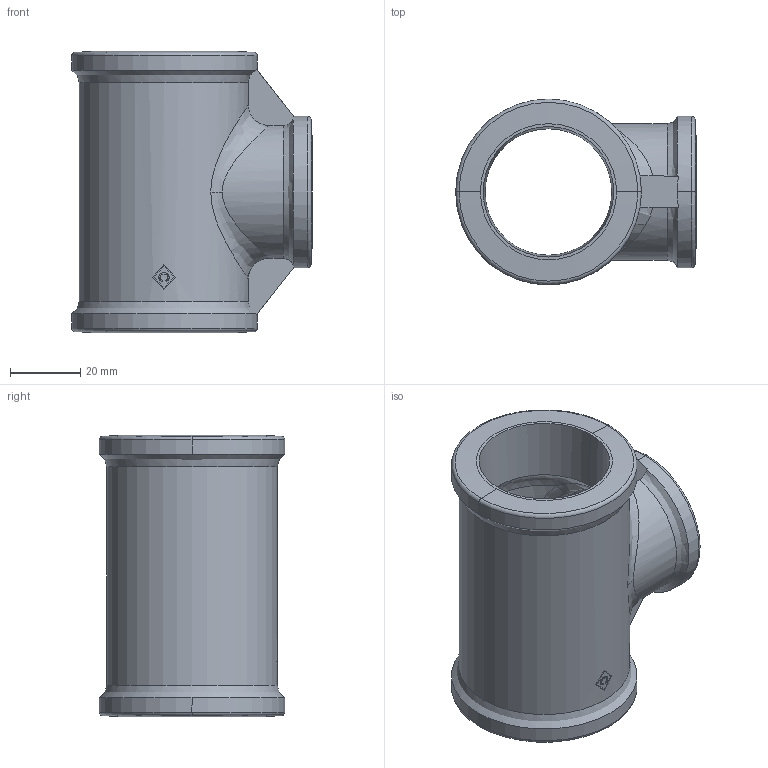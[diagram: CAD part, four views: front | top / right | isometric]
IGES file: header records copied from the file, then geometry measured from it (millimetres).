
Global section: file name: No Iges File Name specified; native system: AutoDesk Inventor R12.0; preprocessor: AutoDesk Inventor Iges Exporter R12.0; date: 20090916.121752; units: millimetre
Bounding box: 68.35 x 52.7 x 80 mm (x, y, z)
Volume: 66082.2 mm3; surface area: 28533 mm2
Topology: 1 solids, 1 shells, 79 faces, 215 edges, 140 vertices
Faces by surface type: bspline 27, plane 19, cylinder 12, revolution 9, cone 6, torus 6
